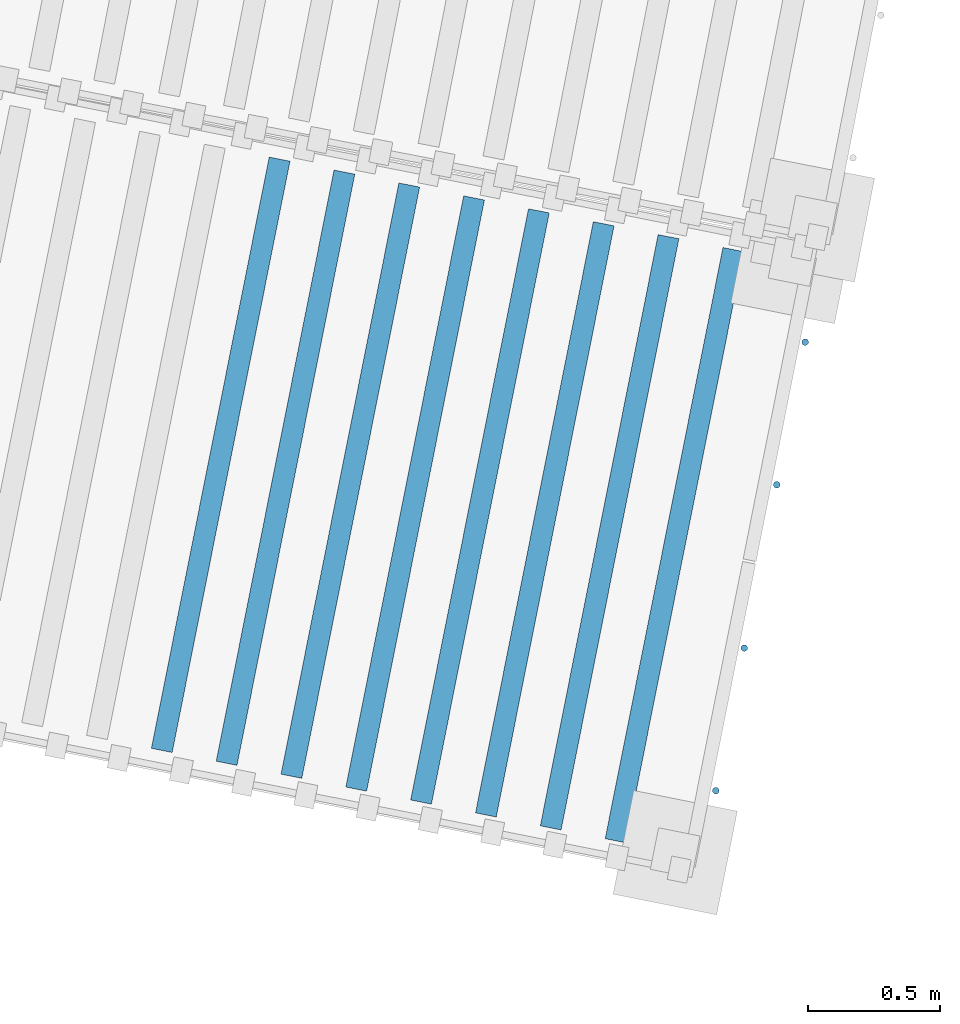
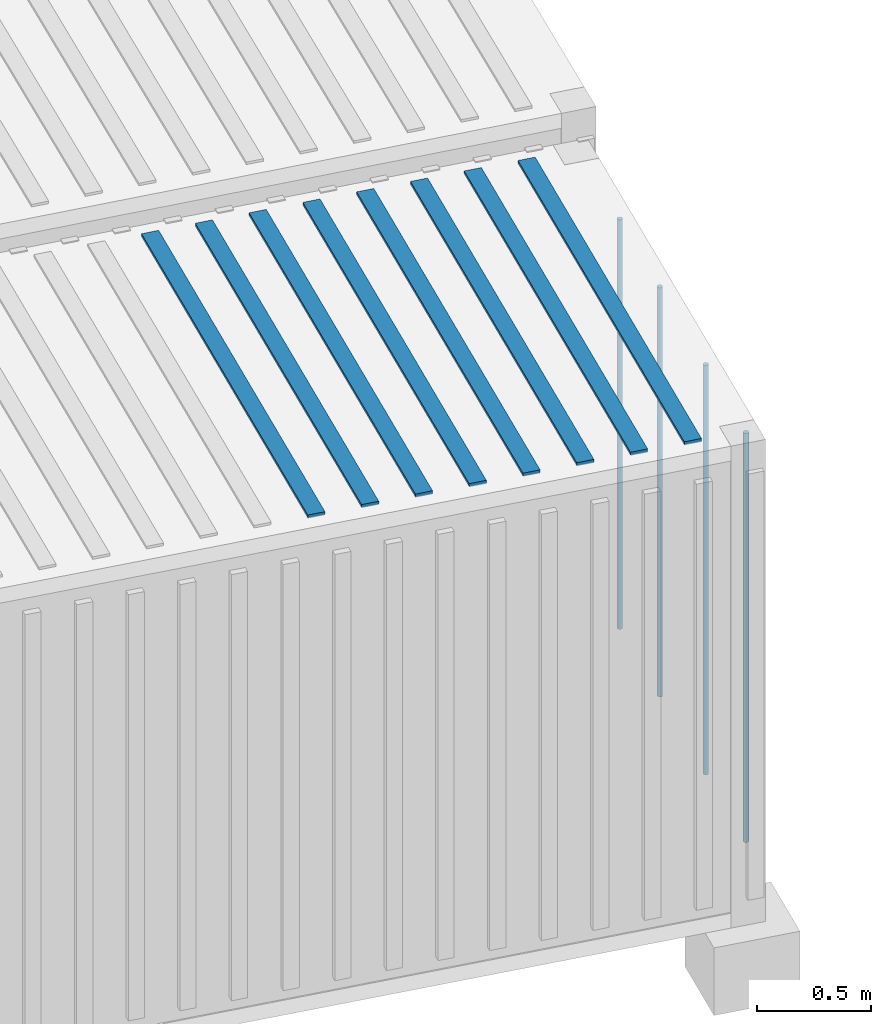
# One storey, part 24 of 128: 12 members, 1 element without a shape of its own.
"""IFC4 building model written with IfcOpenShell, lengths in metres."""

from ifc_helpers import new_model, si_unit, direction, frame, origin_with_axes, place, context, subcontext, project, spatial, polyline, circle, outline, extrude, material, material_profile, profile_set, profile_usage, type_object, element, aggregate, save


model = new_model("IFC4")

# Units and contexts
model_context = context("Model", 3, precision=1e-05, world=origin_with_axes(), true_north=direction((0.0, 1.0)))
body_context = subcontext(model_context, "Body", "Model", "MODEL_VIEW")
ifc_project = project(units=[si_unit("VOLUMEUNIT", "CUBIC_METRE"), si_unit("LENGTHUNIT", "METRE"), si_unit("AREAUNIT", "SQUARE_METRE")], contexts=[model_context])

# Site, building, storey
site_placement = place(None, origin_with_axes())
site = spatial("IfcSite", under=ifc_project, at=site_placement, Name="Lares · Rua das Mercês · artigo 4771")
building_placement = place(site_placement, frame((15.0, 9.7, 13.9), z_axis=(0.0, 0.0, 1.0), x_axis=(0.989015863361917, -0.147809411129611, 0.0)))
building = spatial("IfcBuilding", under=site, at=building_placement, Name="Casa Sobreposta")
storey_placement = place(building_placement, origin_with_axes())
storey = spatial("IfcBuildingStorey", under=building, at=storey_placement, Name="00 · Habitação e estacionamento", Elevation=13.9)

# Assembly, members
assembly_placement = place(storey_placement, frame((-14.5932944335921, 6.63122214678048, 0.0), z_axis=(0.0, 0.0, 1.0), x_axis=(0.998832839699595, -0.0483007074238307, 0.0)))
assembly = element("IfcElementAssembly", 1, at=assembly_placement, inside=storey, Name="Contentor existente 2 · 6 m", ObjectType="EXISTING_SHIPPING_CONTAINER", PredefinedType="USERDEFINED")
ifc_material_1 = material(Name="Aço galvanizado / Stahl verzinkt", Category="steel")
ifc_material_profile = material_profile(ifc_material_1, circle(Radius=0.0125))
ifc_profile_set = profile_set([ifc_material_profile], Name="D0.025")
ifc_profile_usage_1 = profile_usage(ifc_profile_set)
member_type = type_object("IfcMemberType", Name="D0.025 / galvanized", PredefinedType="NOTDEFINED", material=ifc_profile_set)
member_1_placement = place(assembly_placement, frame((6.025, 0.34, -0.218751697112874), z_axis=(0.0, 0.0, 1.0), x_axis=(1.0, 0.0, 0.0)))
member_1 = element("IfcMember", 2, at=member_1_placement, type_object=member_type, material=ifc_profile_usage_1, Name="Contentor · varão de fecho", context=body_context, shape_type="SweptSolid", body=[
    extrude(circle(Radius=0.0125), origin_with_axes(), (0.0, 0.0, 1.0), 2.2),
])
ifc_profile_usage_2 = profile_usage(ifc_profile_set)
member_2_placement = place(assembly_placement, frame((6.025, 0.89, -0.218751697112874), z_axis=(0.0, 0.0, 1.0), x_axis=(1.0, 0.0, 0.0)))
member_2 = element("IfcMember", 3, at=member_2_placement, type_object=member_type, material=ifc_profile_usage_2, Name="Contentor · varão de fecho", context=body_context, shape_type="SweptSolid", body=[
    extrude(circle(Radius=0.0125), origin_with_axes(), (0.0, 0.0, 1.0), 2.2),
])
ifc_profile_usage_3 = profile_usage(ifc_profile_set)
member_3_placement = place(assembly_placement, frame((6.025, 1.52, -0.218751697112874), z_axis=(0.0, 0.0, 1.0), x_axis=(1.0, 0.0, 0.0)))
member_3 = element("IfcMember", 4, at=member_3_placement, type_object=member_type, material=ifc_profile_usage_3, Name="Contentor · varão de fecho", context=body_context, shape_type="SweptSolid", body=[
    extrude(circle(Radius=0.0125), origin_with_axes(), (0.0, 0.0, 1.0), 2.2),
])
ifc_profile_usage_4 = profile_usage(ifc_profile_set)
member_4_placement = place(assembly_placement, frame((6.025, 2.07, -0.218751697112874), z_axis=(0.0, 0.0, 1.0), x_axis=(1.0, 0.0, 0.0)))
member_4 = element("IfcMember", 5, at=member_4_placement, type_object=member_type, material=ifc_profile_usage_4, Name="Contentor · varão de fecho", context=body_context, shape_type="SweptSolid", body=[
    extrude(circle(Radius=0.0125), origin_with_axes(), (0.0, 0.0, 1.0), 2.2),
])
ifc_material_2 = material(Name="Contentor · pintura 2", Category="steel")
member_5_placement = place(assembly_placement, frame((0.0, 0.0, 2.16624830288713), z_axis=(0.0, 0.0, 1.0), x_axis=(1.0, 0.0, 0.0)))
member_5 = element("IfcMember", 6, at=member_5_placement, material=ifc_material_2, Name="Contentor · nervura cobertura", context=body_context, shape_type="SweptSolid", body=[
    extrude(outline(polyline([(3.98, 0.08), (3.98, 2.36), (3.9, 2.36), (3.9, 0.08), (3.98, 0.08)])), origin_with_axes(), (0.0, 0.0, 1.0), 0.018),
])
member_6_placement = place(assembly_placement, frame((0.0, 0.0, 2.16624830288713), z_axis=(0.0, 0.0, 1.0), x_axis=(1.0, 0.0, 0.0)))
member_6 = element("IfcMember", 7, at=member_6_placement, material=ifc_material_2, Name="Contentor · nervura cobertura", context=body_context, shape_type="SweptSolid", body=[
    extrude(outline(polyline([(4.23, 0.08), (4.23, 2.36), (4.15, 2.36), (4.15, 0.08), (4.23, 0.08)])), origin_with_axes(), (0.0, 0.0, 1.0), 0.018),
])
member_7_placement = place(assembly_placement, frame((0.0, 0.0, 2.16624830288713), z_axis=(0.0, 0.0, 1.0), x_axis=(1.0, 0.0, 0.0)))
member_7 = element("IfcMember", 8, at=member_7_placement, material=ifc_material_2, Name="Contentor · nervura cobertura", context=body_context, shape_type="SweptSolid", body=[
    extrude(outline(polyline([(4.48, 0.08), (4.48, 2.36), (4.4, 2.36), (4.4, 0.08), (4.48, 0.08)])), origin_with_axes(), (0.0, 0.0, 1.0), 0.018),
])
member_8_placement = place(assembly_placement, frame((0.0, 0.0, 2.16624830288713), z_axis=(0.0, 0.0, 1.0), x_axis=(1.0, 0.0, 0.0)))
member_8 = element("IfcMember", 9, at=member_8_placement, material=ifc_material_2, Name="Contentor · nervura cobertura", context=body_context, shape_type="SweptSolid", body=[
    extrude(outline(polyline([(4.73, 0.08), (4.73, 2.36), (4.65, 2.36), (4.65, 0.08), (4.73, 0.08)])), origin_with_axes(), (0.0, 0.0, 1.0), 0.018),
])
member_9_placement = place(assembly_placement, frame((0.0, 0.0, 2.16624830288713), z_axis=(0.0, 0.0, 1.0), x_axis=(1.0, 0.0, 0.0)))
member_9 = element("IfcMember", 10, at=member_9_placement, material=ifc_material_2, Name="Contentor · nervura cobertura", context=body_context, shape_type="SweptSolid", body=[
    extrude(outline(polyline([(4.98, 0.08), (4.98, 2.36), (4.9, 2.36), (4.9, 0.08), (4.98, 0.08)])), origin_with_axes(), (0.0, 0.0, 1.0), 0.018),
])
member_10_placement = place(assembly_placement, frame((0.0, 0.0, 2.16624830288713), z_axis=(0.0, 0.0, 1.0), x_axis=(1.0, 0.0, 0.0)))
member_10 = element("IfcMember", 11, at=member_10_placement, material=ifc_material_2, Name="Contentor · nervura cobertura", context=body_context, shape_type="SweptSolid", body=[
    extrude(outline(polyline([(5.23, 0.08), (5.23, 2.36), (5.15, 2.36), (5.15, 0.08), (5.23, 0.08)])), origin_with_axes(), (0.0, 0.0, 1.0), 0.018),
])
member_11_placement = place(assembly_placement, frame((0.0, 0.0, 2.16624830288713), z_axis=(0.0, 0.0, 1.0), x_axis=(1.0, 0.0, 0.0)))
member_11 = element("IfcMember", 12, at=member_11_placement, material=ifc_material_2, Name="Contentor · nervura cobertura", context=body_context, shape_type="SweptSolid", body=[
    extrude(outline(polyline([(5.48, 0.08), (5.48, 2.36), (5.4, 2.36), (5.4, 0.08), (5.48, 0.08)])), origin_with_axes(), (0.0, 0.0, 1.0), 0.018),
])
member_12_placement = place(assembly_placement, frame((0.0, 0.0, 2.16624830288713), z_axis=(0.0, 0.0, 1.0), x_axis=(1.0, 0.0, 0.0)))
member_12 = element("IfcMember", 13, at=member_12_placement, material=ifc_material_2, Name="Contentor · nervura cobertura", context=body_context, shape_type="SweptSolid", body=[
    extrude(outline(polyline([(5.73, 0.08), (5.73, 2.36), (5.65, 2.36), (5.65, 0.08), (5.73, 0.08)])), origin_with_axes(), (0.0, 0.0, 1.0), 0.018),
])
aggregate(assembly, [member_1, member_2, member_3, member_4, member_5, member_6, member_7, member_8, member_9, member_10, member_11, member_12])

save(model, "model.ifc")
